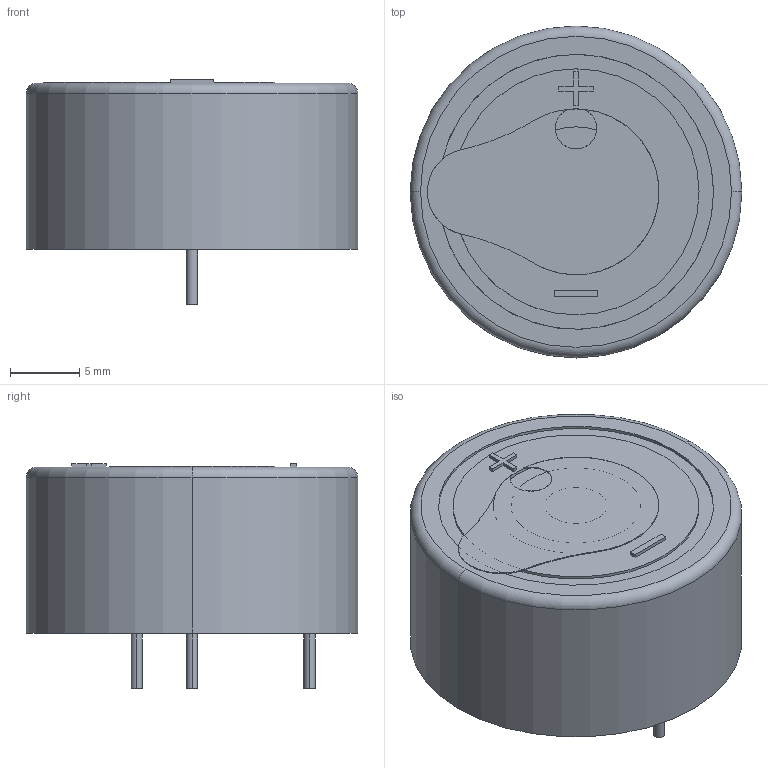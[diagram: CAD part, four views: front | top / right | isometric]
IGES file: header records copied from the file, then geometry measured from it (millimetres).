
Global section: file name: No Iges File Name specified; native system: AutoDesk Inventor R12.0; preprocessor: AutoDesk Inventor Iges Exporter R12.0; date: 20090223.154612; units: millimetre
Bounding box: 24 x 24 x 16.25 mm (x, y, z)
Volume: 6239.5 mm3; surface area: 4354 mm2
Topology: 2 solids, 2 shells, 142 faces, 360 edges, 232 vertices
Faces by surface type: plane 81, cylinder 24, revolution 19, bspline 16, torus 2
